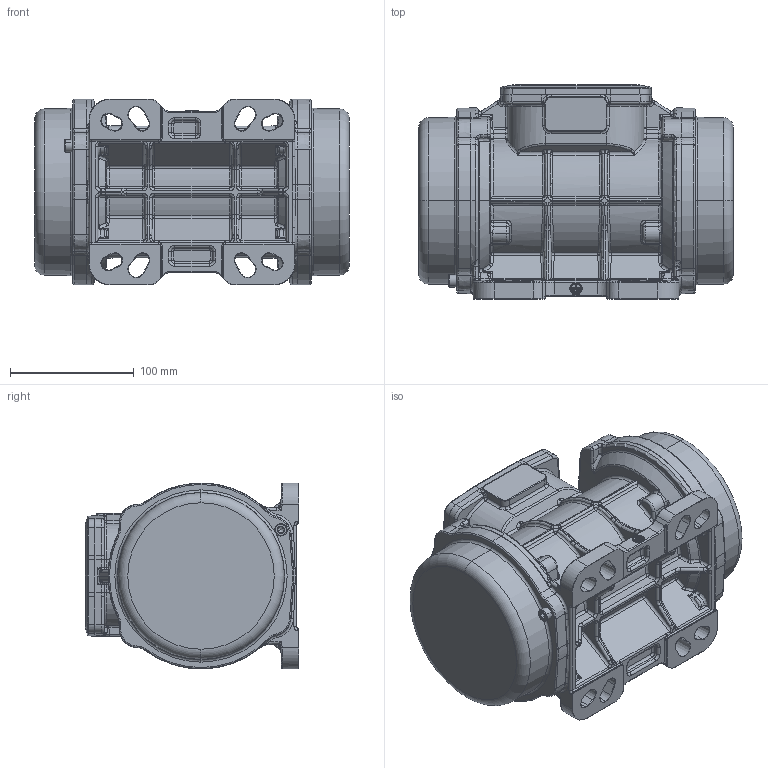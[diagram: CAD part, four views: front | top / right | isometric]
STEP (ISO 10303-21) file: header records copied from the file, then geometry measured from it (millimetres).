
FILE_DESCRIPTION (( 'STEP AP203' ), '1' );
FILE_NAME ('MVE300-3-36.STEP', '2018-05-29T12:18:17', ( 'dma' ), ( '' ), 'SwSTEP 2.0', 'SolidWorks 2016', '' );
FILE_SCHEMA (( 'CONFIG_CONTROL_DESIGN' ));
Length unit declared in the file: millimetre
Products named in the file (1): MVE300-3-36
Bounding box: 254 x 172.5 x 150 mm (x, y, z)
Volume: 3601103.6 mm3; surface area: 225248.5 mm2
Topology: 1 solids, 1 shells, 2160 faces, 5071 edges, 2816 vertices
Faces by surface type: bspline 699, cylinder 615, torus 289, plane 260, sphere 186, cone 111
Entity records: 78600 total; most frequent: CARTESIAN_POINT 34794, ORIENTED_EDGE 9900, DIRECTION 8595, EDGE_CURVE 4950, AXIS2_PLACEMENT_3D 3652, VERTEX_POINT 2804, CIRCLE 2190, EDGE_LOOP 2188
